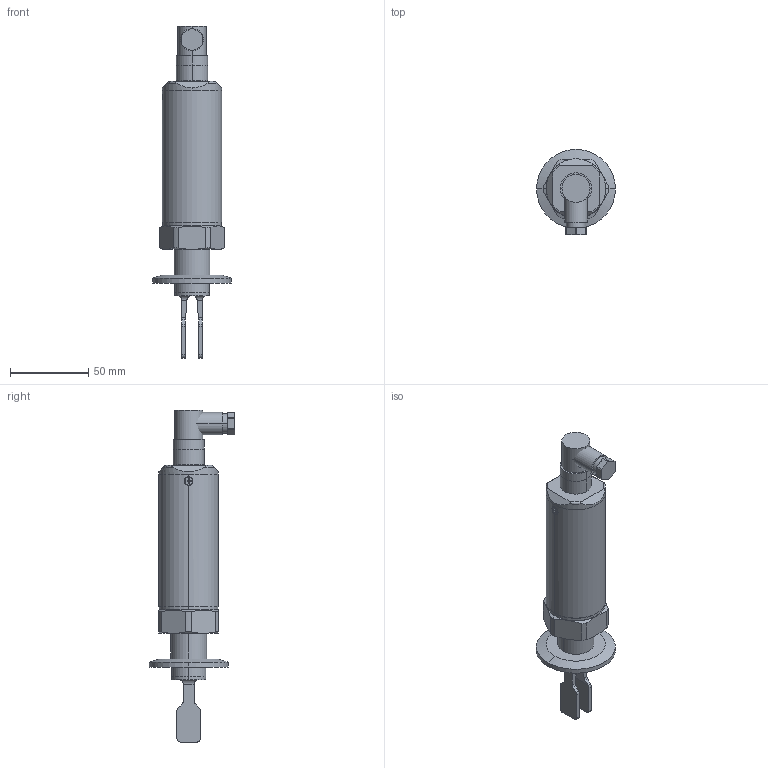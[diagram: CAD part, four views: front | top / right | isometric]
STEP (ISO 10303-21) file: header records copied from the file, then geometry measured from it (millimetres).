
FILE_DESCRIPTION (( 'STEP AP203' ), '1' );
FILE_NAME ('HS73I（航空接头）.STEP', '2024-10-25T07:05:35', ( '' ), ( '' ), 'SwSTEP 2.0', 'SolidWorks 2016', '' );
FILE_SCHEMA (( 'CONFIG_CONTROL_DESIGN' ));
Length unit declared in the file: millimetre
Products named in the file (3): HS73I 瑤諾諉芛; HS73Iㄗ瑤諾諉芛ㄘ; 苤脫1199.7hz
Assembly tree (2 placements, depth 2):
  HS73Iㄗ瑤諾諉芛ㄘ
    苤脫1199.7hz
    HS73I 瑤諾諉芛
Bounding box: 50.5 x 54.75 x 212.5 mm (x, y, z)
Volume: 158602 mm3; surface area: 30934.4 mm2
Topology: 6 solids, 6 shells, 153 faces, 370 edges, 244 vertices
Faces by surface type: cylinder 71, plane 70, cone 8, torus 4
Entity records: 5093 total; most frequent: CARTESIAN_POINT 1216, DIRECTION 760, ORIENTED_EDGE 740, EDGE_CURVE 370, AXIS2_PLACEMENT_3D 292, VERTEX_POINT 244, LINE 176, VECTOR 176
